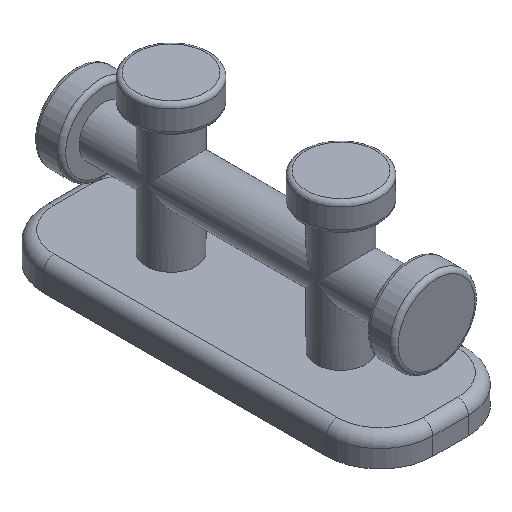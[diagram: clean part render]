
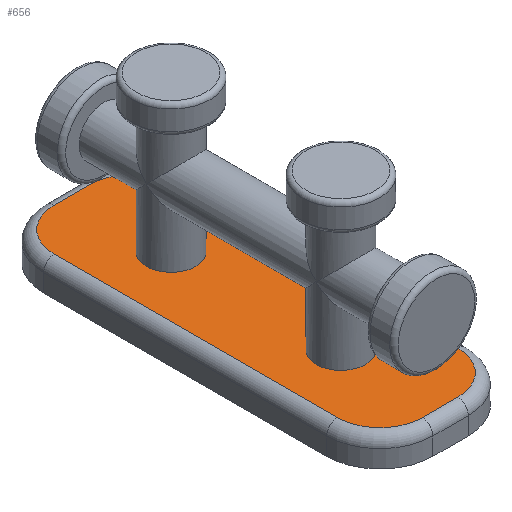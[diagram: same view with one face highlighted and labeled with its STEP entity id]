
A CAD part, isometric view. The second image highlights one B-rep face of the part: STEP entity #656.
In plain terms, the highlighted planar face has unit normal (0, 0, 1).
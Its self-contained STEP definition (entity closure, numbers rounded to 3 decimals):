
#27=FACE_BOUND('',#201,.T.);
#28=FACE_BOUND('',#202,.T.);
#37=PLANE('',#759);
#54=LINE('',#1166,#85);
#55=LINE('',#1170,#86);
#56=LINE('',#1174,#87);
#57=LINE('',#1178,#88);
#85=VECTOR('',#954,10.);
#86=VECTOR('',#957,10.);
#87=VECTOR('',#960,10.);
#88=VECTOR('',#963,10.);
#151=FACE_OUTER_BOUND('',#200,.T.);
#200=EDGE_LOOP('',(#535,#536,#537,#538,#539,#540,#541,#542));
#201=EDGE_LOOP('',(#543));
#202=EDGE_LOOP('',(#544));
#254=CIRCLE('',#754,1.75);
#255=CIRCLE('',#756,1.75);
#256=CIRCLE('',#760,3.);
#257=CIRCLE('',#761,3.);
#258=CIRCLE('',#762,3.);
#259=CIRCLE('',#763,3.);
#306=VERTEX_POINT('',#1152);
#307=VERTEX_POINT('',#1156);
#308=VERTEX_POINT('',#1164);
#309=VERTEX_POINT('',#1165);
#310=VERTEX_POINT('',#1167);
#311=VERTEX_POINT('',#1169);
#312=VERTEX_POINT('',#1171);
#313=VERTEX_POINT('',#1173);
#314=VERTEX_POINT('',#1175);
#315=VERTEX_POINT('',#1177);
#382=EDGE_CURVE('',#306,#306,#254,.T.);
#384=EDGE_CURVE('',#307,#307,#255,.T.);
#387=EDGE_CURVE('',#308,#309,#54,.T.);
#388=EDGE_CURVE('',#309,#310,#256,.T.);
#389=EDGE_CURVE('',#310,#311,#55,.T.);
#390=EDGE_CURVE('',#311,#312,#257,.T.);
#391=EDGE_CURVE('',#312,#313,#56,.T.);
#392=EDGE_CURVE('',#313,#314,#258,.T.);
#393=EDGE_CURVE('',#314,#315,#57,.T.);
#394=EDGE_CURVE('',#315,#308,#259,.T.);
#535=ORIENTED_EDGE('',*,*,#387,.T.);
#536=ORIENTED_EDGE('',*,*,#388,.T.);
#537=ORIENTED_EDGE('',*,*,#389,.T.);
#538=ORIENTED_EDGE('',*,*,#390,.T.);
#539=ORIENTED_EDGE('',*,*,#391,.T.);
#540=ORIENTED_EDGE('',*,*,#392,.T.);
#541=ORIENTED_EDGE('',*,*,#393,.T.);
#542=ORIENTED_EDGE('',*,*,#394,.T.);
#543=ORIENTED_EDGE('',*,*,#382,.T.);
#544=ORIENTED_EDGE('',*,*,#384,.T.);
#656=ADVANCED_FACE('',(#151,#27,#28),#37,.T.);
#754=AXIS2_PLACEMENT_3D('',#1154,#939,#940);
#756=AXIS2_PLACEMENT_3D('',#1158,#944,#945);
#759=AXIS2_PLACEMENT_3D('',#1163,#952,#953);
#760=AXIS2_PLACEMENT_3D('',#1168,#955,#956);
#761=AXIS2_PLACEMENT_3D('',#1172,#958,#959);
#762=AXIS2_PLACEMENT_3D('',#1176,#961,#962);
#763=AXIS2_PLACEMENT_3D('',#1179,#964,#965);
#939=DIRECTION('center_axis',(0.,0.,
-1.));
#940=DIRECTION('ref_axis',(1.,0.,0.));
#944=DIRECTION('center_axis',(0.,0.,
-1.));
#945=DIRECTION('ref_axis',(1.,0.,0.));
#952=DIRECTION('center_axis',(0.,0.,
1.));
#953=DIRECTION('ref_axis',(0.,-1.,0.));
#954=DIRECTION('',(0.,-1.,0.));
#955=DIRECTION('center_axis',(0.,0.,
1.));
#956=DIRECTION('ref_axis',(-0.707,-0.707,0.));
#957=DIRECTION('',(1.,0.,0.));
#958=DIRECTION('center_axis',(0.,0.,
1.));
#959=DIRECTION('ref_axis',(0.707,-0.707,0.));
#960=DIRECTION('',(0.,1.,0.));
#961=DIRECTION('center_axis',(0.,0.,
1.));
#962=DIRECTION('ref_axis',(0.707,0.707,0.));
#963=DIRECTION('',(-1.,0.,0.));
#964=DIRECTION('center_axis',(0.,0.,
1.));
#965=DIRECTION('ref_axis',(-0.707,0.707,0.));
#1152=CARTESIAN_POINT('',(-1024.217,968.341,43.203));
#1154=CARTESIAN_POINT('Origin',(-1025.967,968.341,43.203));
#1156=CARTESIAN_POINT('',(-1024.217,956.341,43.203));
#1158=CARTESIAN_POINT('Origin',(-1025.967,956.341,43.203));
#1163=CARTESIAN_POINT('Origin',(-1106.185,817.077,43.203));
#1164=CARTESIAN_POINT('',(-1030.217,972.341,43.203));
#1165=CARTESIAN_POINT('',(-1030.217,952.341,43.203));
#1166=CARTESIAN_POINT('',(-1030.217,894.709,43.203));
#1167=CARTESIAN_POINT('',(-1027.217,949.341,43.203));
#1168=CARTESIAN_POINT('Origin',(-1027.217,952.341,43.203));
#1169=CARTESIAN_POINT('',(-1024.717,949.341,43.203));
#1170=CARTESIAN_POINT('',(-1066.701,949.341,43.203));
#1171=CARTESIAN_POINT('',(-1021.717,952.341,43.203));
#1172=CARTESIAN_POINT('Origin',(-1024.717,952.341,43.203));
#1173=CARTESIAN_POINT('',(-1021.717,972.341,43.203));
#1174=CARTESIAN_POINT('',(-1021.717,884.709,43.203));
#1175=CARTESIAN_POINT('',(-1024.717,975.341,43.203));
#1176=CARTESIAN_POINT('Origin',(-1024.717,972.341,43.203));
#1177=CARTESIAN_POINT('',(-1027.217,975.341,43.203));
#1178=CARTESIAN_POINT('',(-1065.451,975.341,43.203));
#1179=CARTESIAN_POINT('Origin',(-1027.217,972.341,43.203));
